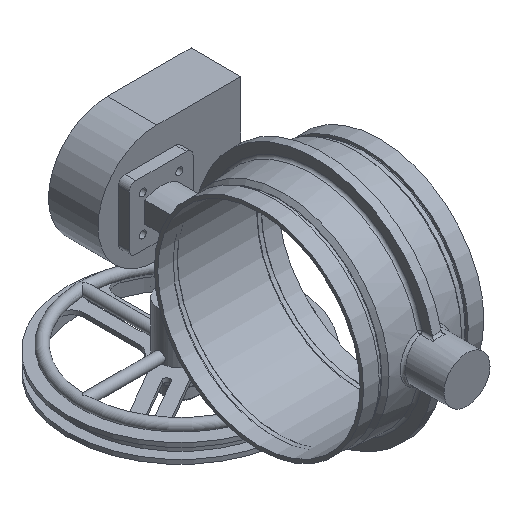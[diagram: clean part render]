
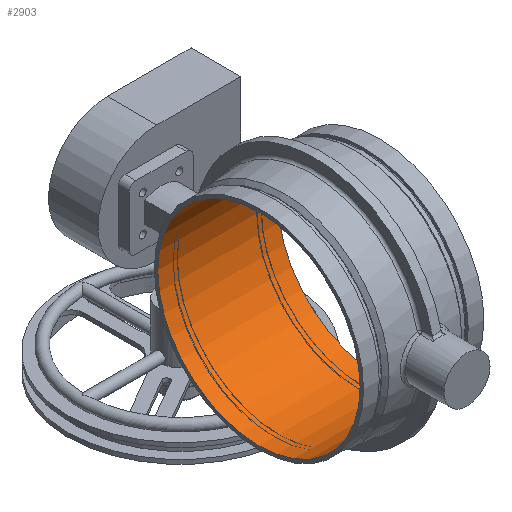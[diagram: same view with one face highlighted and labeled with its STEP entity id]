
A CAD part, isometric view. The second image highlights one B-rep face of the part: STEP entity #2903.
In plain terms, the highlighted cylindrical face has radius 245.618 mm (diameter 491.236 mm), a full revolution.
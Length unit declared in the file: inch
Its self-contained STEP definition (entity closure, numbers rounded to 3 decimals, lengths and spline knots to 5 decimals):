
#346=CIRCLE('',#3274,9.67);
#347=CIRCLE('',#3275,9.67);
#348=CIRCLE('',#3277,9.67);
#349=CIRCLE('',#3278,9.67);
#509=FACE_OUTER_BOUND('',#684,.T.);
#684=EDGE_LOOP('',(#2644,#2645,#2646,#2647,#2648,#2649));
#914=LINE('',#5974,#1063);
#1063=VECTOR('',#4142,9.67);
#1346=VERTEX_POINT('',#5968);
#1347=VERTEX_POINT('',#5969);
#1348=VERTEX_POINT('',#5973);
#1349=VERTEX_POINT('',#5975);
#1782=EDGE_CURVE('',#1346,#1347,#346,.T.);
#1783=EDGE_CURVE('',#1347,#1346,#347,.T.);
#1784=EDGE_CURVE('',#1347,#1348,#914,.T.);
#1785=EDGE_CURVE('',#1349,#1348,#348,.T.);
#1786=EDGE_CURVE('',#1348,#1349,#349,.T.);
#2644=ORIENTED_EDGE('',*,*,#1782,.T.);
#2645=ORIENTED_EDGE('',*,*,#1784,.T.);
#2646=ORIENTED_EDGE('',*,*,#1785,.F.);
#2647=ORIENTED_EDGE('',*,*,#1786,.F.);
#2648=ORIENTED_EDGE('',*,*,#1784,.F.);
#2649=ORIENTED_EDGE('',*,*,#1783,.T.);
#2752=CYLINDRICAL_SURFACE('',#3276,9.67);
#2903=ADVANCED_FACE('',(#509),#2752,.F.);
#3274=AXIS2_PLACEMENT_3D('',#5970,#4136,#4137);
#3275=AXIS2_PLACEMENT_3D('',#5971,#4138,#4139);
#3276=AXIS2_PLACEMENT_3D('',#5972,#4140,#4141);
#3277=AXIS2_PLACEMENT_3D('',#5976,#4143,#4144);
#3278=AXIS2_PLACEMENT_3D('',#5977,#4145,#4146);
#4136=DIRECTION('center_axis',(1.,0.,0.));
#4137=DIRECTION('ref_axis',(0.,1.,0.));
#4138=DIRECTION('center_axis',(1.,0.,0.));
#4139=DIRECTION('ref_axis',(0.,1.,0.));
#4140=DIRECTION('center_axis',(1.,0.,0.));
#4141=DIRECTION('ref_axis',(0.,1.,0.));
#4142=DIRECTION('',(-1.,0.,0.));
#4143=DIRECTION('center_axis',(1.,0.,0.));
#4144=DIRECTION('ref_axis',(0.,1.,0.));
#4145=DIRECTION('center_axis',(1.,0.,0.));
#4146=DIRECTION('ref_axis',(0.,1.,0.));
#5968=CARTESIAN_POINT('',(5.75,9.67,0.));
#5969=CARTESIAN_POINT('',(5.75,-9.67,0.));
#5970=CARTESIAN_POINT('Origin',(5.75,0.,0.));
#5971=CARTESIAN_POINT('Origin',(5.75,0.,0.));
#5972=CARTESIAN_POINT('Origin',(0.,0.,0.));
#5973=CARTESIAN_POINT('',(-5.75,-9.67,0.));
#5974=CARTESIAN_POINT('',(0.,-9.67,0.));
#5975=CARTESIAN_POINT('',(-5.75,9.67,0.));
#5976=CARTESIAN_POINT('Origin',(-5.75,0.,0.));
#5977=CARTESIAN_POINT('Origin',(-5.75,0.,0.));
